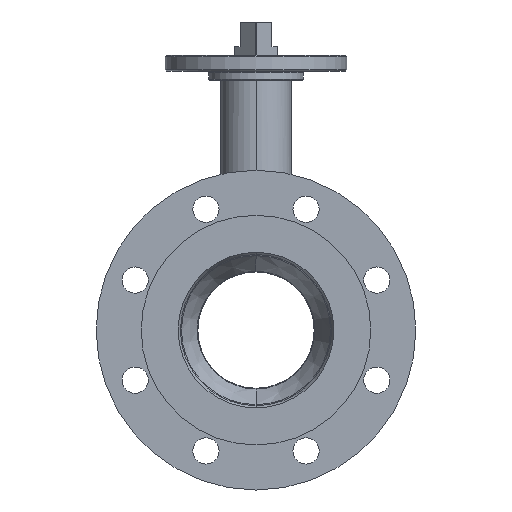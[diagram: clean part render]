
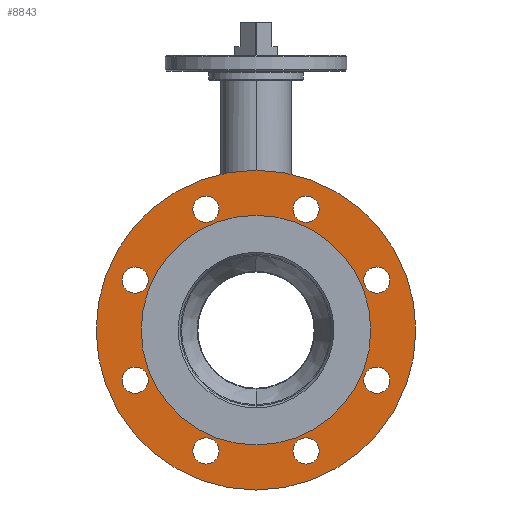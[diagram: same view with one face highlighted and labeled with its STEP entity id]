
A CAD part, left-side view. The second image highlights one B-rep face of the part: STEP entity #8843.
In plain terms, the highlighted planar face has unit normal (-1, 0, 0).
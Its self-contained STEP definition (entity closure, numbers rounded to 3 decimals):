
#1492=CARTESIAN_POINT('',(-173.,0.,0.));
#1493=DIRECTION('',(1.,0.,0.));
#1494=DIRECTION('',(0.,0.,-1.));
#1495=AXIS2_PLACEMENT_3D('',#1492,#1493,#1494);
#1497=CARTESIAN_POINT('',(-173.,0.,0.));
#1498=DIRECTION('',(1.,0.,0.));
#1499=DIRECTION('',(0.,0.,1.));
#1500=AXIS2_PLACEMENT_3D('',#1497,#1498,#1499);
#1502=CARTESIAN_POINT('',(-173.,0.,0.));
#1503=DIRECTION('',(-1.,0.,0.));
#1504=DIRECTION('',(0.,0.,1.));
#1505=AXIS2_PLACEMENT_3D('',#1502,#1503,#1504);
#1507=CARTESIAN_POINT('',(-173.,0.,0.));
#1508=DIRECTION('',(-1.,0.,0.));
#1509=DIRECTION('',(0.,0.,-1.));
#1510=AXIS2_PLACEMENT_3D('',#1507,#1508,#1509);
#1512=CARTESIAN_POINT('',(-173.,34.442,-83.149));
#1513=DIRECTION('',(-1.,0.,0.));
#1514=DIRECTION('',(0.,-1.,0.));
#1515=AXIS2_PLACEMENT_3D('',#1512,#1513,#1514);
#1517=CARTESIAN_POINT('',(-173.,34.442,-83.149));
#1518=DIRECTION('',(-1.,0.,0.));
#1519=DIRECTION('',(0.,1.,0.));
#1520=AXIS2_PLACEMENT_3D('',#1517,#1518,#1519);
#1522=CARTESIAN_POINT('',(-173.,83.149,-34.442));
#1523=DIRECTION('',(-1.,0.,0.));
#1524=DIRECTION('',(0.,-1.,0.));
#1525=AXIS2_PLACEMENT_3D('',#1522,#1523,#1524);
#1527=CARTESIAN_POINT('',(-173.,83.149,-34.442));
#1528=DIRECTION('',(-1.,0.,0.));
#1529=DIRECTION('',(0.,1.,0.));
#1530=AXIS2_PLACEMENT_3D('',#1527,#1528,#1529);
#1532=CARTESIAN_POINT('',(-173.,83.149,34.442));
#1533=DIRECTION('',(-1.,0.,0.));
#1534=DIRECTION('',(0.,-1.,0.));
#1535=AXIS2_PLACEMENT_3D('',#1532,#1533,#1534);
#1537=CARTESIAN_POINT('',(-173.,83.149,34.442));
#1538=DIRECTION('',(-1.,0.,0.));
#1539=DIRECTION('',(0.,1.,0.));
#1540=AXIS2_PLACEMENT_3D('',#1537,#1538,#1539);
#1542=CARTESIAN_POINT('',(-173.,34.442,83.149));
#1543=DIRECTION('',(-1.,0.,0.));
#1544=DIRECTION('',(0.,-1.,0.));
#1545=AXIS2_PLACEMENT_3D('',#1542,#1543,#1544);
#1547=CARTESIAN_POINT('',(-173.,34.442,83.149));
#1548=DIRECTION('',(-1.,0.,0.));
#1549=DIRECTION('',(0.,1.,0.));
#1550=AXIS2_PLACEMENT_3D('',#1547,#1548,#1549);
#1552=CARTESIAN_POINT('',(-173.,-34.442,83.149));
#1553=DIRECTION('',(-1.,0.,0.));
#1554=DIRECTION('',(0.,-1.,0.));
#1555=AXIS2_PLACEMENT_3D('',#1552,#1553,#1554);
#1557=CARTESIAN_POINT('',(-173.,-34.442,83.149));
#1558=DIRECTION('',(-1.,0.,0.));
#1559=DIRECTION('',(0.,1.,0.));
#1560=AXIS2_PLACEMENT_3D('',#1557,#1558,#1559);
#1562=CARTESIAN_POINT('',(-173.,-83.149,34.442));
#1563=DIRECTION('',(-1.,0.,0.));
#1564=DIRECTION('',(0.,-1.,0.));
#1565=AXIS2_PLACEMENT_3D('',#1562,#1563,#1564);
#1567=CARTESIAN_POINT('',(-173.,-83.149,34.442));
#1568=DIRECTION('',(-1.,0.,0.));
#1569=DIRECTION('',(0.,1.,0.));
#1570=AXIS2_PLACEMENT_3D('',#1567,#1568,#1569);
#1572=CARTESIAN_POINT('',(-173.,-83.149,-34.442));
#1573=DIRECTION('',(-1.,0.,0.));
#1574=DIRECTION('',(0.,-1.,0.));
#1575=AXIS2_PLACEMENT_3D('',#1572,#1573,#1574);
#1577=CARTESIAN_POINT('',(-173.,-83.149,-34.442));
#1578=DIRECTION('',(-1.,0.,0.));
#1579=DIRECTION('',(0.,1.,0.));
#1580=AXIS2_PLACEMENT_3D('',#1577,#1578,#1579);
#1582=CARTESIAN_POINT('',(-173.,-34.442,-83.149));
#1583=DIRECTION('',(-1.,0.,0.));
#1584=DIRECTION('',(0.,-1.,0.));
#1585=AXIS2_PLACEMENT_3D('',#1582,#1583,#1584);
#1587=CARTESIAN_POINT('',(-173.,-34.442,-83.149));
#1588=DIRECTION('',(-1.,0.,0.));
#1589=DIRECTION('',(0.,1.,0.));
#1590=AXIS2_PLACEMENT_3D('',#1587,#1588,#1589);
#6374=CARTESIAN_POINT('',(-173.,0.,-110.));
#6375=CARTESIAN_POINT('',(-173.,0.,110.));
#6376=VERTEX_POINT('',#6374);
#6377=VERTEX_POINT('',#6375);
#6382=CARTESIAN_POINT('',(-173.,0.,79.));
#6383=CARTESIAN_POINT('',(-173.,0.,-79.));
#6384=VERTEX_POINT('',#6382);
#6385=VERTEX_POINT('',#6383);
#6386=CARTESIAN_POINT('',(-173.,25.442,-83.149));
#6387=CARTESIAN_POINT('',(-173.,43.442,-83.149));
#6388=VERTEX_POINT('',#6386);
#6389=VERTEX_POINT('',#6387);
#6390=CARTESIAN_POINT('',(-173.,74.149,-34.442));
#6391=CARTESIAN_POINT('',(-173.,92.149,-34.442));
#6392=VERTEX_POINT('',#6390);
#6393=VERTEX_POINT('',#6391);
#6394=CARTESIAN_POINT('',(-173.,74.149,34.442));
#6395=CARTESIAN_POINT('',(-173.,92.149,34.442));
#6396=VERTEX_POINT('',#6394);
#6397=VERTEX_POINT('',#6395);
#6398=CARTESIAN_POINT('',(-173.,25.442,83.149));
#6399=CARTESIAN_POINT('',(-173.,43.442,83.149));
#6400=VERTEX_POINT('',#6398);
#6401=VERTEX_POINT('',#6399);
#6402=CARTESIAN_POINT('',(-173.,-43.442,83.149));
#6403=CARTESIAN_POINT('',(-173.,-25.442,83.149));
#6404=VERTEX_POINT('',#6402);
#6405=VERTEX_POINT('',#6403);
#6406=CARTESIAN_POINT('',(-173.,-92.149,34.442));
#6407=CARTESIAN_POINT('',(-173.,-74.149,34.442));
#6408=VERTEX_POINT('',#6406);
#6409=VERTEX_POINT('',#6407);
#6410=CARTESIAN_POINT('',(-173.,-92.149,-34.442));
#6411=CARTESIAN_POINT('',(-173.,-74.149,-34.442));
#6412=VERTEX_POINT('',#6410);
#6413=VERTEX_POINT('',#6411);
#6414=CARTESIAN_POINT('',(-173.,-43.442,-83.149));
#6415=CARTESIAN_POINT('',(-173.,-25.442,-83.149));
#6416=VERTEX_POINT('',#6414);
#6417=VERTEX_POINT('',#6415);
#8779=CARTESIAN_POINT('',(-173.,0.,0.));
#8780=DIRECTION('',(1.,0.,0.));
#8781=DIRECTION('',(0.,0.,1.));
#8782=AXIS2_PLACEMENT_3D('',#8779,#8780,#8781);
#8783=PLANE('',#8782);
#8785=ORIENTED_EDGE('',*,*,#8784,.T.);
#8786=ORIENTED_EDGE('',*,*,#8769,.T.);
#8787=EDGE_LOOP('',(#8785,#8786));
#8788=FACE_OUTER_BOUND('',#8787,.F.);
#8790=ORIENTED_EDGE('',*,*,#8789,.T.);
#8792=ORIENTED_EDGE('',*,*,#8791,.T.);
#8793=EDGE_LOOP('',(#8790,#8792));
#8794=FACE_BOUND('',#8793,.F.);
#8796=ORIENTED_EDGE('',*,*,#8795,.T.);
#8798=ORIENTED_EDGE('',*,*,#8797,.T.);
#8799=EDGE_LOOP('',(#8796,#8798));
#8800=FACE_BOUND('',#8799,.F.);
#8802=ORIENTED_EDGE('',*,*,#8801,.T.);
#8804=ORIENTED_EDGE('',*,*,#8803,.T.);
#8805=EDGE_LOOP('',(#8802,#8804));
#8806=FACE_BOUND('',#8805,.F.);
#8808=ORIENTED_EDGE('',*,*,#8807,.T.);
#8810=ORIENTED_EDGE('',*,*,#8809,.T.);
#8811=EDGE_LOOP('',(#8808,#8810));
#8812=FACE_BOUND('',#8811,.F.);
#8814=ORIENTED_EDGE('',*,*,#8813,.T.);
#8816=ORIENTED_EDGE('',*,*,#8815,.T.);
#8817=EDGE_LOOP('',(#8814,#8816));
#8818=FACE_BOUND('',#8817,.F.);
#8820=ORIENTED_EDGE('',*,*,#8819,.T.);
#8822=ORIENTED_EDGE('',*,*,#8821,.T.);
#8823=EDGE_LOOP('',(#8820,#8822));
#8824=FACE_BOUND('',#8823,.F.);
#8826=ORIENTED_EDGE('',*,*,#8825,.T.);
#8828=ORIENTED_EDGE('',*,*,#8827,.T.);
#8829=EDGE_LOOP('',(#8826,#8828));
#8830=FACE_BOUND('',#8829,.F.);
#8832=ORIENTED_EDGE('',*,*,#8831,.T.);
#8834=ORIENTED_EDGE('',*,*,#8833,.T.);
#8835=EDGE_LOOP('',(#8832,#8834));
#8836=FACE_BOUND('',#8835,.F.);
#8838=ORIENTED_EDGE('',*,*,#8837,.T.);
#8840=ORIENTED_EDGE('',*,*,#8839,.T.);
#8841=EDGE_LOOP('',(#8838,#8840));
#8842=FACE_BOUND('',#8841,.F.);
#8843=ADVANCED_FACE('',(#8788,#8794,#8800,#8806,#8812,#8818,#8824,#8830,#8836,
#8842),#8783,.F.);
#1496=CIRCLE('',#1495,110.);
#1501=CIRCLE('',#1500,110.);
#1506=CIRCLE('',#1505,79.);
#1511=CIRCLE('',#1510,79.);
#1516=CIRCLE('',#1515,9.);
#1521=CIRCLE('',#1520,9.);
#1526=CIRCLE('',#1525,9.);
#1531=CIRCLE('',#1530,9.);
#1536=CIRCLE('',#1535,9.);
#1541=CIRCLE('',#1540,9.);
#1546=CIRCLE('',#1545,9.);
#1551=CIRCLE('',#1550,9.);
#1556=CIRCLE('',#1555,9.);
#1561=CIRCLE('',#1560,9.);
#1566=CIRCLE('',#1565,9.);
#1571=CIRCLE('',#1570,9.);
#1576=CIRCLE('',#1575,9.);
#1581=CIRCLE('',#1580,9.);
#1586=CIRCLE('',#1585,9.);
#1591=CIRCLE('',#1590,9.);
#8769=EDGE_CURVE('',#6377,#6376,#1501,.T.);
#8784=EDGE_CURVE('',#6376,#6377,#1496,.T.);
#8789=EDGE_CURVE('',#6384,#6385,#1506,.T.);
#8791=EDGE_CURVE('',#6385,#6384,#1511,.T.);
#8795=EDGE_CURVE('',#6388,#6389,#1516,.T.);
#8797=EDGE_CURVE('',#6389,#6388,#1521,.T.);
#8801=EDGE_CURVE('',#6392,#6393,#1526,.T.);
#8803=EDGE_CURVE('',#6393,#6392,#1531,.T.);
#8807=EDGE_CURVE('',#6396,#6397,#1536,.T.);
#8809=EDGE_CURVE('',#6397,#6396,#1541,.T.);
#8813=EDGE_CURVE('',#6400,#6401,#1546,.T.);
#8815=EDGE_CURVE('',#6401,#6400,#1551,.T.);
#8819=EDGE_CURVE('',#6404,#6405,#1556,.T.);
#8821=EDGE_CURVE('',#6405,#6404,#1561,.T.);
#8825=EDGE_CURVE('',#6408,#6409,#1566,.T.);
#8827=EDGE_CURVE('',#6409,#6408,#1571,.T.);
#8831=EDGE_CURVE('',#6412,#6413,#1576,.T.);
#8833=EDGE_CURVE('',#6413,#6412,#1581,.T.);
#8837=EDGE_CURVE('',#6416,#6417,#1586,.T.);
#8839=EDGE_CURVE('',#6417,#6416,#1591,.T.);
